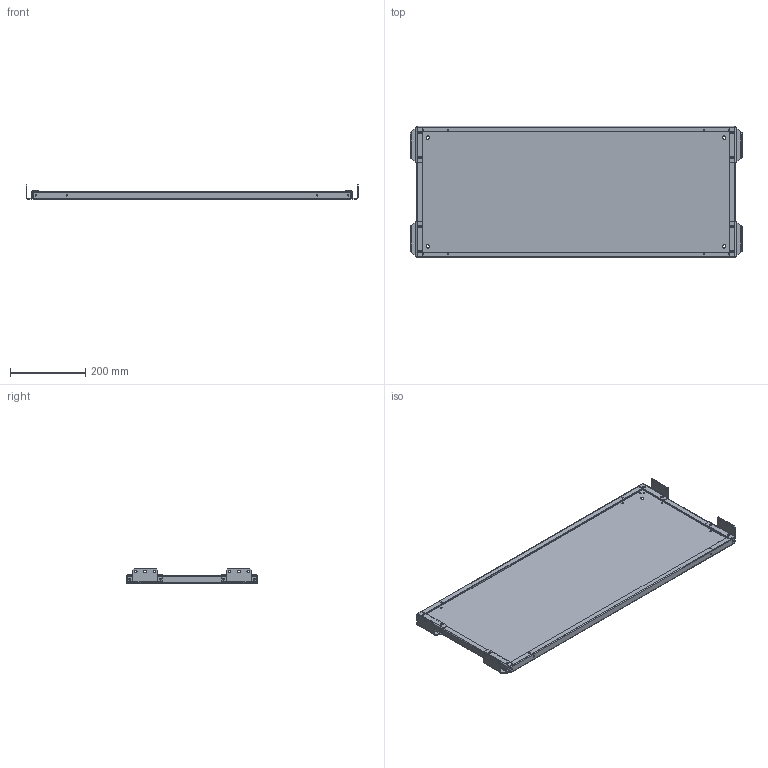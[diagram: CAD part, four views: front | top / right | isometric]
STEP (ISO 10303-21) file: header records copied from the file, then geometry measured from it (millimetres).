
FILE_DESCRIPTION (( 'STEP AP203' ), '1' );
FILE_NAME ('MP 85.35 M Ïàíåëü ìîíòàæíàÿ ñåêöèîííàÿ.STEP', '2013-01-09T13:37:14', ( 'System' ), ( '' ), 'SwSTEP 2.0', 'SolidWorks 2012', '' );
FILE_SCHEMA (( 'CONFIG_CONTROL_DESIGN' ));
Length unit declared in the file: millimetre
Products named in the file (1): MP 85.35 M Ïàíåëü ìîíòàæíàÿ ñåêöèîííàÿ
Bounding box: 885 x 350 x 37.75 mm (x, y, z)
Volume: 788958.5 mm3; surface area: 798660.8 mm2
Topology: 5 solids, 5 shells, 388 faces, 1016 edges, 632 vertices
Faces by surface type: cylinder 196, plane 168, bspline 16, sphere 8
Entity records: 12713 total; most frequent: CARTESIAN_POINT 2749, DIRECTION 2050, ORIENTED_EDGE 2016, EDGE_CURVE 1008, AXIS2_PLACEMENT_3D 733, VERTEX_POINT 632, LINE 584, VECTOR 584
